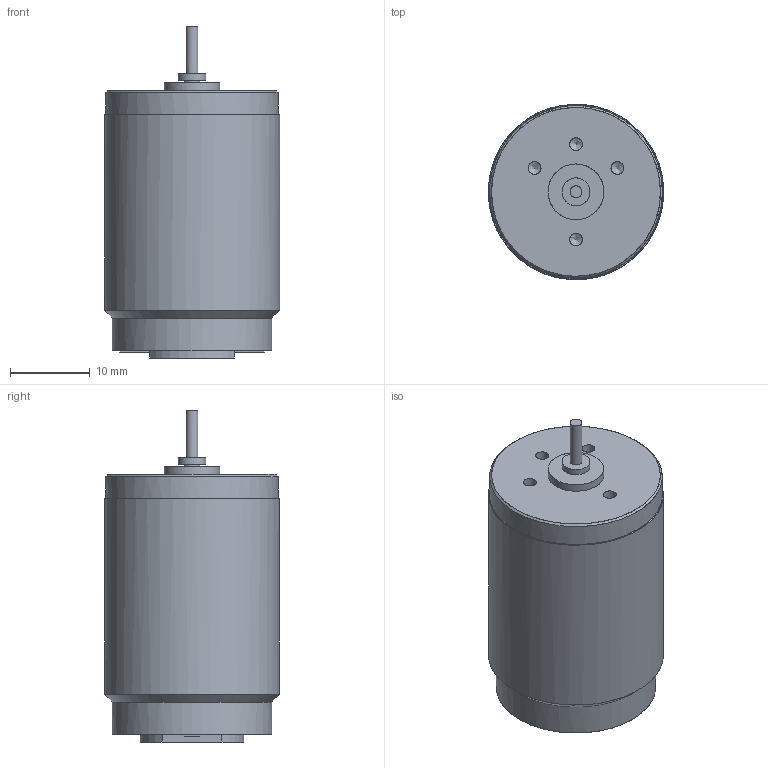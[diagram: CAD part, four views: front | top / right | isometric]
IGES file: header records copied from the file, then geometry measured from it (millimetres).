
Global section: file name: E:\WORK\MISC\DI\MOTORS\2011-11-25\2233TS.igs; native system: NX V7.5; preprocessor: SIEMENS PLM Software NX 7.5; date: 20111221.231527; units: millimetre
Bounding box: 22 x 22 x 41.7 mm (x, y, z)
Surface area: 3162.7 mm2 (no closed solid volume)
Topology: 0 solids, 0 shells, 47 faces, 410 edges, 429 vertices
Faces by surface type: bspline 47
